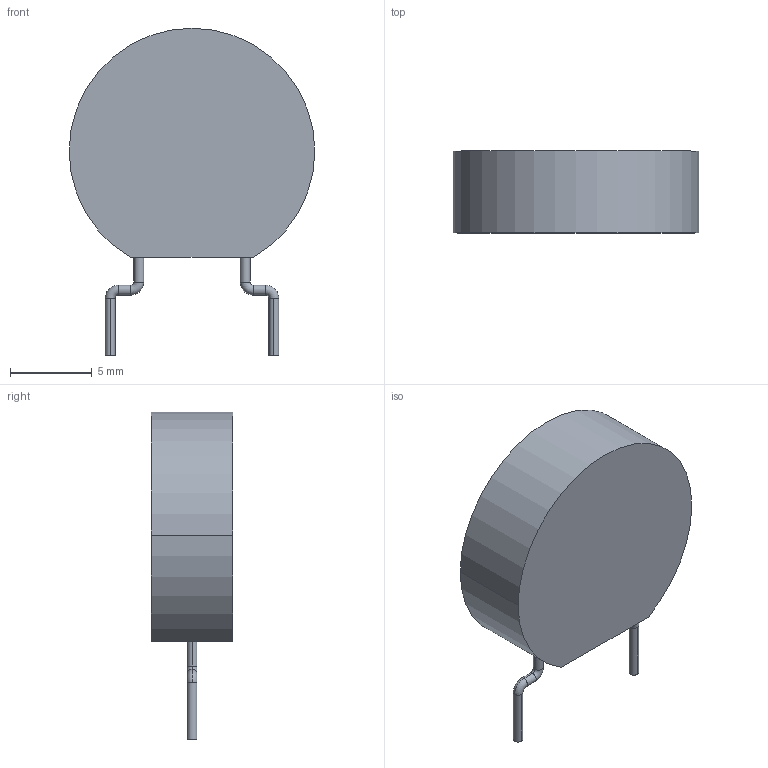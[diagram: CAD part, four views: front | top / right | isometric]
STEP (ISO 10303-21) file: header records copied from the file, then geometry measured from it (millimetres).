
FILE_DESCRIPTION (( 'STEP AP214' ), '1' );
FILE_NAME ( 'CAPRB1000W60L1500T500H1800.STEP', '2021-10-06T06:48:57', ( '' ), ( '' ), '', '©2017 PCB Libraries, Inc.', '' );
FILE_SCHEMA (( 'AUTOMOTIVE_DESIGN' ));
Length unit declared in the file: millimetre
Products named in the file (1): CAPRB1000W60L1500T500H1800
Bounding box: 15 x 5 x 20 mm (x, y, z)
Volume: 862.2 mm3; surface area: 605.8 mm2
Topology: 3 solids, 3 shells, 30 faces, 60 edges, 36 vertices
Faces by surface type: cylinder 15, torus 8, plane 7
Entity records: 928 total; most frequent: DIRECTION 164, CARTESIAN_POINT 127, ORIENTED_EDGE 120, AXIS2_PLACEMENT_3D 73, EDGE_CURVE 60, CIRCLE 42, VERTEX_POINT 36, STYLED_ITEM 34
